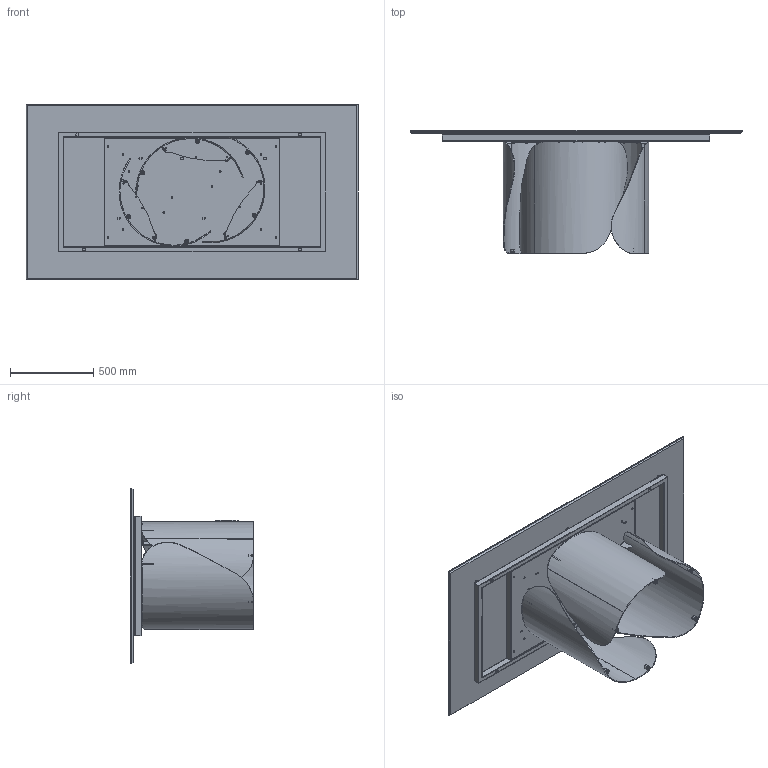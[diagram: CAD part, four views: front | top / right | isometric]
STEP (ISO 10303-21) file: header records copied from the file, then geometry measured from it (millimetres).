
FILE_DESCRIPTION (( 'STEP AP203' ), '1' );
FILE_NAME ('ON21C.STEP', '2024-08-06T13:50:01', ( '' ), ( '' ), 'SwSTEP 2.0', 'SolidWorks 2022', '' );
FILE_SCHEMA (( 'CONFIG_CONTROL_DESIGN' ));
Length unit declared in the file: millimetre
Products named in the file (15): TTAV0601-00-TELAIO X TAVOLI PLAI ONDA NOA 240cm_TTAV06; ON21C; TTAV0601_02-00-VASSOIO TAVOLI PLAI ONDA NOA 240; rondella M8_8X24; OND000000-03-ONDA BASE GREZZA; COLLO TELAIO UNIVERSALE TTAV0601 CON FERRAMENTA_FERRAMENTA MTG TOP CRISTALLO VERNICIATO-CERAMICA; PIEDINO PER ONDA; OND000000_03-00-LAMIERA CURVATA PRINCIPALE_OND00000X-00-ONDA BASE GREZZA PROTOTIPO; K2XCMXX-00-Piani Rettangolari in ceramica_2000 x 1060; COLLO BASE ONDA SINGOLA CON FERRAMENTA; OND000000_02-00-CILINDRO DI FISSAGGIO Ø25X17 M8; M8xXXmm_M8x20mm; TTAV0601_01-00-STRUTTURA X TAVOLI PLAI ONDA NOA 240; OND000000_01-00-PIASTRA SUPERIORE BASE ONDA; 434070-00-PIEDINO TPV GOMMA NERO D. 30x8max18_filo estetico
Assembly tree (45 placements, depth 4):
  ON21C
    COLLO TELAIO UNIVERSALE TTAV0601 CON FERRAMENTA_FERRAMENTA MTG TOP CRISTALLO VERNICIATO-CERAMICA
      TTAV0601-00-TELAIO X TAVOLI PLAI ONDA NOA 240cm_TTAV06
        TTAV0601_02-00-VASSOIO TAVOLI PLAI ONDA NOA 240
        TTAV0601_01-00-STRUTTURA X TAVOLI PLAI ONDA NOA 240
      434070-00-PIEDINO TPV GOMMA NERO D. 30x8max18_filo estetico  x6
    COLLO BASE ONDA SINGOLA CON FERRAMENTA  x3
      OND000000-03-ONDA BASE GREZZA
        OND000000_03-00-LAMIERA CURVATA PRINCIPALE_OND00000X-00-ONDA BASE GREZZA PROTOTIPO
        OND000000_01-00-PIASTRA SUPERIORE BASE ONDA
        OND000000_02-00-CILINDRO DI FISSAGGIO Ø25X17 M8  x2
      PIEDINO PER ONDA
    rondella M8_8X24  x12
    M8xXXmm_M8x20mm  x12
    K2XCMXX-00-Piani Rettangolari in ceramica_2000 x 1060
Bounding box: 2000 x 742 x 1060 mm (x, y, z)
Volume: 46641736.6 mm3; surface area: 14842578.3 mm2
Topology: 64 solids, 64 shells, 1565 faces, 3545 edges, 2138 vertices
Faces by surface type: plane 592, cylinder 501, cone 212, torus 192, bspline 60, sphere 8
Entity records: 21751 total; most frequent: CARTESIAN_POINT 4922, DIRECTION 3128, ORIENTED_EDGE 2890, EDGE_CURVE 1445, AXIS2_PLACEMENT_3D 1166, VERTEX_POINT 886, LINE 796, VECTOR 796
